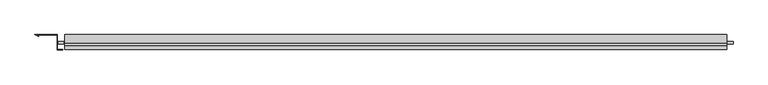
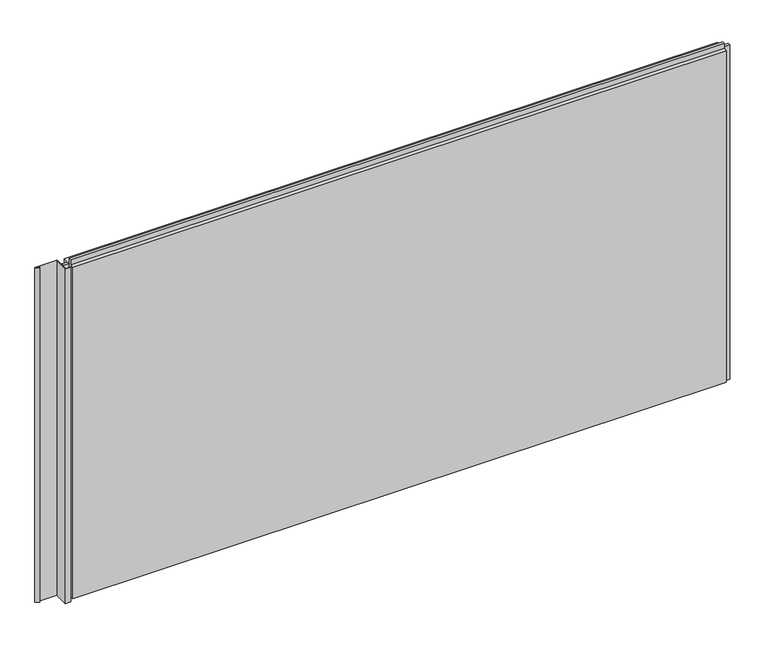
"""IFC4 building model written with IfcOpenShell, lengths in millimetres: plate geometry, Trimo_Qbiss Screen_Normal Panel-HORIZONTAL : HR - FB."""

from ifc_helpers import new_model, si_unit, frame, origin, place, context, project, spatial, polyline, outline, extrude, source, transform, mapped, element, save


def plate_c598d446(model_context):
    return source(origin(), model_context, "Body", "SweptSolid", [
        extrude(outline(polyline([(-1119.0, 100.0), (-1119.0, 50.0), (-1101.5, 50.0), (-1101.5, 49.2), (-1119.8, 49.2), (-1119.8, 99.1967741), (-1191.008772, 99.1967741), (-1181.4756443, 93.6928203), (-1181.8756443, 93.0), (-1194.0, 100.0), (-1119.0, 100.0)])), frame((0.0, 0.0, -1.0), z_axis=(0.0, 0.0, 1.0), x_axis=(1.0, 0.0, 0.0)), (0.0, 0.0, 1.0), 1200.0),
        extrude(outline(polyline([(-1097.0, 76.5978162), (-1097.0, 67.8978162), (-1116.0, 67.8978162), (-1116.0, 76.5978162), (-1097.0, 76.5978162)])), frame((0.0, 0.0, -1.0), z_axis=(0.0, 0.0, 1.0), x_axis=(1.0, 0.0, 0.0)), (0.0, 0.0, 1.0), 1200.0),
        extrude(outline(polyline([(1125.5, 67.8978162), (1125.5, 76.5978162), (1144.5, 76.5978162), (1144.5, 67.8978162), (1125.5, 67.8978162)])), frame((0.0, 0.0, -1.0), z_axis=(0.0, 0.0, 1.0), x_axis=(1.0, 0.0, 0.0)), (0.0, 0.0, 1.0), 1200.0),
        extrude(outline(polyline([(71.0, 1196.0), (100.0, 1196.0), (100.0, 0.0), (72.0, 0.0), (72.0, 15.5), (62.0, 15.5), (62.0, 7.0), (50.0, 7.0), (50.0, 1196.0), (63.0, 1196.0), (63.0, 1214.5), (71.0, 1214.5), (71.0, 1196.0)])), frame((-1094.0, 0.0, 0.0), z_axis=(1.0, 0.0, 0.0), x_axis=(0.0, 1.0, 0.0)), (0.0, 0.0, 1.0), 2216.5),
    ])


if __name__ == "__main__":
    model = new_model("IFC4")
    model_context = context("Model", 3, world=origin())
    ifc_project = project(units=[si_unit("LENGTHUNIT", "METRE", prefix="MILLI")], contexts=[model_context])
    site = spatial("IfcSite", under=ifc_project)
    building = spatial("IfcBuilding", under=site)
    placement = place(None, origin())
    plate_shape = plate_c598d446(model_context)
    element("IfcPlate", 1, ObjectType="Trimo_Qbiss Screen_Normal Panel-HORIZONTAL : HR - FB", at=placement, inside=building, context=model_context, shape_type="MappedRepresentation", body=[
        mapped(plate_shape, transform((0.0, 0.0, 0.0), x_axis=(1.0, 0.0, 0.0), y_axis=(0.0, 1.0, 0.0), z_axis=(0.0, 0.0, 1.0))),
    ])
    save(model, "model.ifc")
